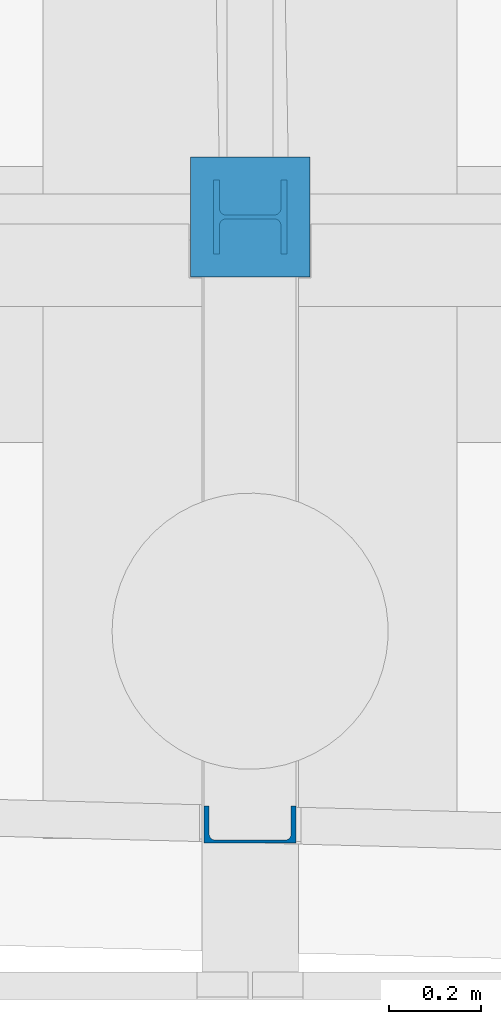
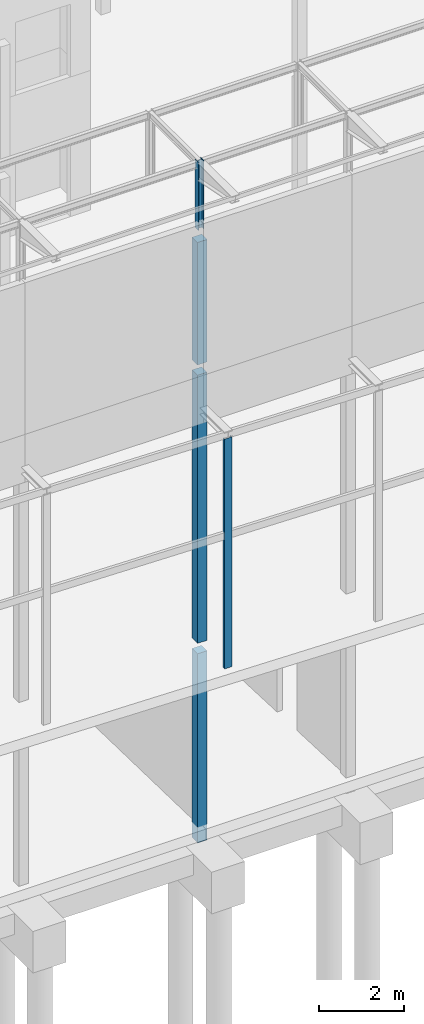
# One storey, part 13 of 82: 5 columns.
"""IFC2X3 building model written with IfcOpenShell, lengths in millimetres."""

from ifc_helpers import new_model, si_unit, frame, frame_2d, origin_with_axes, place, context, subcontext, project, spatial, rectangle, i_section, u_section, extrude, material, type_object, element, save


model = new_model("IFC2X3")

# Units and contexts
model_context = context("Model", 3, precision=1e-05, world=origin_with_axes())
body_context = subcontext(model_context, "Body", "Model", "MODEL_VIEW")
ifc_project = project(units=[si_unit("LENGTHUNIT", "METRE", prefix="MILLI"), si_unit("AREAUNIT", "SQUARE_METRE"), si_unit("VOLUMEUNIT", "CUBIC_METRE"), si_unit("MASSUNIT", "GRAM", prefix="KILO"), si_unit("TIMEUNIT", "SECOND"), si_unit("PLANEANGLEUNIT", "RADIAN"), si_unit("SOLIDANGLEUNIT", "STERADIAN"), si_unit("THERMODYNAMICTEMPERATUREUNIT", "DEGREE_CELSIUS"), si_unit("LUMINOUSINTENSITYUNIT", "LUMEN")], contexts=[model_context])

# Site, building, storey
site_placement = place(None, origin_with_axes())
site = spatial("IfcSite", under=ifc_project, at=site_placement, Name="Undefined", CompositionType="ELEMENT")
building_placement = place(site_placement, origin_with_axes())
building = spatial("IfcBuilding", under=site, at=building_placement, Name="Undefined", CompositionType="ELEMENT")
storey_placement = place(building_placement, origin_with_axes())
storey = spatial("IfcBuildingStorey", under=building, at=storey_placement, Name="Undefined", CompositionType="ELEMENT", Elevation=0.0)

# Columns
ifc_material_1 = material(Name="CONCRETE/C25/30")
column_type_1 = type_object("IfcColumnType", Name="260*260", PredefinedType="NOTDEFINED")
column_1_placement = place(storey_placement, frame((29249.9999999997, -1.75575394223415e-08, 13330.0), z_axis=(0.0, 0.0, 1.0), x_axis=(1.0, 0.0, 0.0)))
element("IfcColumn", 1, at=column_1_placement, inside=storey, type_object=column_type_1, material=ifc_material_1, Name="POTEAU", ObjectType="260*260", context=body_context, shape_type="SweptSolid", body=[
    extrude(rectangle(XDim=260.0, YDim=260.0, at=frame_2d((5.17284206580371e-08, 4.49290382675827e-10), x_axis=(1.0, 0.0))), frame((0.0, 0.0, 3529.99999999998), z_axis=(0.0, -6.50000002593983e-08, -0.999999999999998), x_axis=(-1.0, 0.0, 0.0)), (0.0, 0.0, 1.0), 3530.0),
])
column_2_placement = place(storey_placement, frame((29249.9999999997, -1.75575394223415e-08, 5300.0), z_axis=(0.0, 0.0, 1.0), x_axis=(1.0, 0.0, 0.0)))
element("IfcColumn", 2, at=column_2_placement, inside=storey, type_object=column_type_1, material=ifc_material_1, Name="POTEAU", ObjectType="260*260", context=body_context, shape_type="SweptSolid", body=[
    extrude(rectangle(XDim=260.0, YDim=260.0, at=frame_2d((5.17284206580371e-08, 4.49290382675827e-10), x_axis=(1.0, 0.0))), frame((0.0, 0.0, 7730.0), z_axis=(0.0, -6.50000002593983e-08, -0.999999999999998), x_axis=(-1.0, 0.0, 0.0)), (0.0, 0.0, 1.0), 7730.0),
])
column_3_placement = place(storey_placement, frame((29249.9999999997, -1.75575394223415e-08, -450.0), z_axis=(0.0, 0.0, 1.0), x_axis=(1.0, 0.0, 0.0)))
element("IfcColumn", 3, at=column_3_placement, inside=storey, type_object=column_type_1, material=ifc_material_1, Name="POTEAU", ObjectType="260*260", context=body_context, shape_type="SweptSolid", body=[
    extrude(rectangle(XDim=260.0, YDim=260.0, at=frame_2d((5.17284206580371e-08, 4.49290382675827e-10), x_axis=(1.0, 0.0))), frame((0.0, 0.0, 5450.00000000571), z_axis=(0.0, -6.50000002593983e-08, -0.999999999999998), x_axis=(-1.0, 0.0, 0.0)), (0.0, 0.0, 1.0), 5450.0),
])
ifc_material_2 = material(Name="STEEL/S275JR")
column_type_2 = type_object("IfcColumnType", Name="HEB160", PredefinedType="NOTDEFINED")
column_4_placement = place(storey_placement, frame((29250.0000000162, -5.59059287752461e-08, 17160.0), z_axis=(0.0, 0.0, 1.0), x_axis=(1.0, 0.0, 0.0)))
element("IfcColumn", 4, at=column_4_placement, inside=storey, type_object=column_type_2, material=ifc_material_2, Name="POTEAU", ObjectType="HEB160", context=body_context, shape_type="SweptSolid", body=[
    extrude(i_section(OverallWidth=160.0, OverallDepth=160.0, WebThickness=8.0, FlangeThickness=13.0, FilletRadius=15.0, at=frame_2d((5.17284206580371e-08, 4.49290382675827e-10), x_axis=(1.0, 0.0))), frame((0.0, 0.0, 1965.0), z_axis=(0.0, -6.50000002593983e-08, -0.999999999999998), x_axis=(-2.77555756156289e-17, -1.0, 0.0)), (0.0, 0.0, 1.0), 1965.0),
])
column_type_3 = type_object("IfcColumnType", Name="UPE200", PredefinedType="NOTDEFINED")
column_5_placement = place(storey_placement, frame((29249.9999987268, -1319.83228088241, 5300.00000000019), z_axis=(0.0, 0.0, 1.0), x_axis=(1.0, 0.0, 0.0)))
element("IfcColumn", 5, at=column_5_placement, inside=storey, type_object=column_type_3, material=ifc_material_2, Name="POUTRE", ObjectType="UPE200", context=body_context, shape_type="SweptSolid", body=[
    extrude(u_section(Depth=200.0, FlangeWidth=80.0, WebThickness=6.0, FlangeThickness=11.0, FilletRadius=13.0, at=frame_2d((5.17284206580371e-08, 4.49290382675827e-10), x_axis=(1.0, 0.0))), frame((0.0, 0.0, 6625.00000000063), z_axis=(0.0, -6.50000002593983e-08, -0.999999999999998), x_axis=(0.0, 1.0, 0.0)), (0.0, 0.0, 1.0), 6625.0),
])

save(model, "model.ifc")
